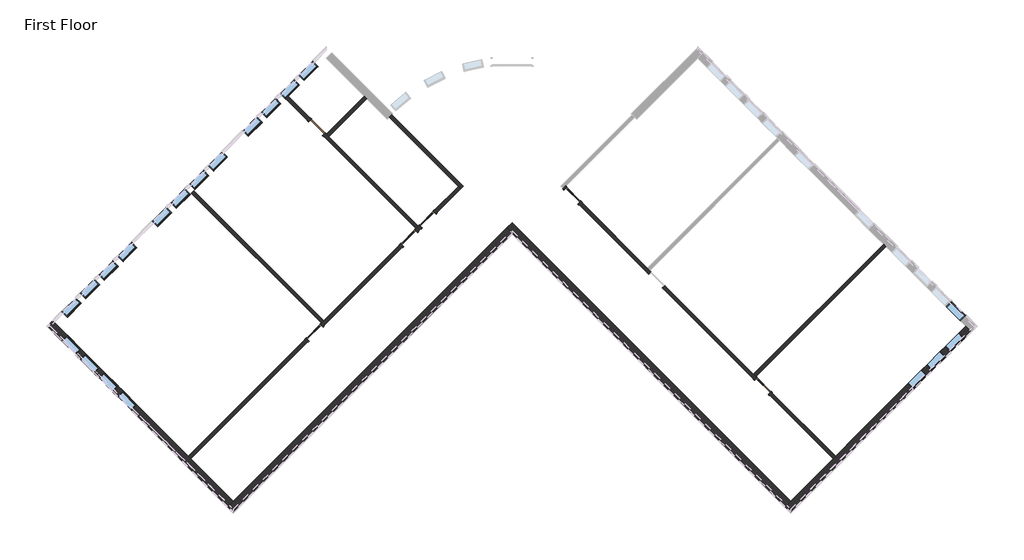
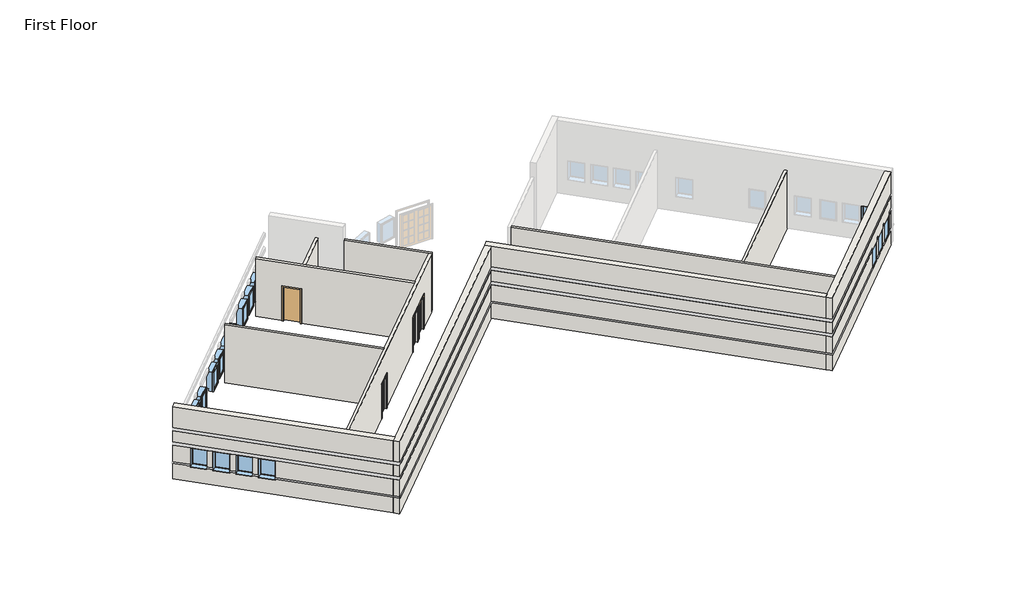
# One storey, part 1 of 3: 20 windows, 11 walls, 6 doors.
"""IFC4 building model written with IfcOpenShell, lengths in millimetres."""

from ifc_helpers import new_model, si_unit, frame, origin, origin_with_axes, place, context, project, spatial, polyline, circle_curve, outline, extrude, faceted_brep, transform, mapped, element, save
from ifc_brep_helpers import plane_surface, cylinder_surface, advanced_brep
from components import door_f9494b7c, door_b81abb0e, door_5f5b55da, window_15c49d37, window_0e2fc6ce

model = new_model("IFC4")

# Units and contexts
model_context = context("Model", 3, world=origin())
ifc_project = project(units=[si_unit("LENGTHUNIT", "METRE", prefix="MILLI")], contexts=[model_context])

# Site, building, storey
site = spatial("IfcSite", under=ifc_project)
building = spatial("IfcBuilding", under=site)
storey = spatial("IfcBuildingStorey", under=building, Name="First Floor", Elevation=0.0)

# Doors
placement = place(None, origin())
door_shape = door_f9494b7c(model_context)
element("IfcDoor", 1, ObjectType="Single-Flush : 36\" x 84\"", at=placement, inside=storey, context=model_context, shape_type="MappedRepresentation", body=[
    mapped(door_shape, transform((-11920.1265343, 7875.9588464, 0.0), x_axis=(0.7071067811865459, -0.7071067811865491, 0.0), y_axis=(0.7071067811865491, 0.7071067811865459, 0.0), z_axis=(0.0, 0.0, 1.0))),
])
door_2_shape = door_b81abb0e(model_context)
element("IfcDoor", 2, ObjectType="Single-Glass 1 : 36\" x 84\"", at=placement, inside=storey, context=model_context, shape_type="MappedRepresentation", body=[
    mapped(door_2_shape, transform((-12027.7718255, -1647.4849877, 0.0), x_axis=(0.7071067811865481, 0.7071067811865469, 0.0), y_axis=(-0.7071067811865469, 0.7071067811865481, 0.0), z_axis=(0.0, 0.0, 1.0))),
])
element("IfcDoor", 3, ObjectType="Single-Glass 1 : 36\" x 84\"", at=placement, inside=storey, context=model_context, shape_type="MappedRepresentation", body=[
    mapped(door_2_shape, transform((-7643.2795567, 2737.0072811, 0.0), x_axis=(0.7071067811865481, 0.7071067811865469, 0.0), y_axis=(-0.7071067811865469, 0.7071067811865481, 0.0), z_axis=(0.0, 0.0, 1.0))),
])
door_3_shape = door_5f5b55da(model_context)
element("IfcDoor", 4, ObjectType="Single-Glass 1 : 36\" x 84\"", at=placement, inside=storey, context=model_context, shape_type="MappedRepresentation", body=[
    mapped(door_3_shape, transform((-6781.1749691, 3599.1118687, 0.0), x_axis=(-0.7071067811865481, -0.7071067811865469, 0.0), y_axis=(0.7071067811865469, -0.7071067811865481, 0.0), z_axis=(0.0, 0.0, 1.0))),
])
element("IfcDoor", 5, ObjectType="Single-Glass 1 : 36\" x 84\"", at=placement, inside=storey, context=model_context, shape_type="MappedRepresentation", body=[
    mapped(door_3_shape, transform((-66.4240191, 4710.6541283, 0.0), x_axis=(-0.7071067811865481, 0.7071067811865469, 0.0), y_axis=(-0.7071067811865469, -0.7071067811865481, 0.0), z_axis=(0.0, 0.0, 1.0))),
])
element("IfcDoor", 6, ObjectType="Single-Glass 1 : 36\" x 84\"", at=placement, inside=storey, context=model_context, shape_type="MappedRepresentation", body=[
    mapped(door_3_shape, transform((8770.3835686, -4126.1534594, 0.0), x_axis=(-0.7071067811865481, 0.7071067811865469, 0.0), y_axis=(-0.7071067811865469, -0.7071067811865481, 0.0), z_axis=(0.0, 0.0, 1.0))),
])

# Walls
element("IfcWall", 7, ObjectType="Exterior - Split Face and CMU on Mtl. Stud", at=placement, inside=storey, context=model_context, shape_type="Brep", body=[
    faceted_brep([(18186.1821115, -1357.9895101, 4572.0), (10063.54045, -9480.6311716, 4572.0), (9814.3383427, -9729.833279, 4572.0), (10063.54045, -9979.0353863, 4572.0), (18435.3842189, -1607.1916175, 4572.0), (18186.1821115, -1357.9895101, 0.0), (12149.2049342, -7394.9666875, 0.0), (12039.1967967, -7504.974825, 0.0), (10063.54045, -9480.6311716, 0.0), (9814.3383427, -9729.833279, 0.0), (9814.3383427, -9729.833279, 1016.0), (9879.4451996, -9664.7264221, 1016.0), (9879.4451996, -9664.7264221, 1085.85), (9814.3383427, -9729.833279, 1085.85), (9814.3383427, -9729.833279, 2133.6), (9879.4451996, -9664.7264221, 2133.6), (9879.4451996, -9664.7264221, 2336.8), (9814.3383427, -9729.833279, 2336.8), (9814.3383427, -9729.833279, 3048.0), (9879.4451996, -9664.7264221, 3048.0), (9879.4451996, -9664.7264221, 3251.2), (9814.3383427, -9729.833279, 3251.2), (17233.1524307, -2311.0191909, 2133.6), (17233.1524307, -2311.0191909, 914.4), (17879.7308714, -1664.4407502, 914.4), (17879.7308714, -1664.4407502, 2133.6), (16371.0478431, -3173.1237786, 2133.6), (16371.0478431, -3173.1237786, 914.4), (17017.6262838, -2526.5453378, 914.4), (17017.6262838, -2526.5453378, 2133.6), (15508.9432554, -4035.2283662, 2133.6), (15508.9432554, -4035.2283662, 914.4), (16155.5216962, -3388.6499255, 914.4), (16155.5216962, -3388.6499255, 2133.6), (10063.54045, -9979.0353863, 3251.2), (18435.3842189, -1607.1916175, 3251.2), (10063.54045, -9979.0353863, 0.0), (18435.3842189, -1607.1916175, 0.0), (18435.3842189, -1607.1916175, 1016.0), (18128.9329788, -1913.6428576, 1016.0), (18128.9329788, -1913.6428576, 914.4), (17482.3545381, -2560.2212983, 914.4), (17482.3545381, -2560.2212983, 1016.0), (17266.8283911, -2775.7474452, 1016.0), (17266.8283911, -2775.7474452, 914.4), (16620.2499504, -3422.3258859, 914.4), (16620.2499504, -3422.3258859, 1016.0), (16404.7238035, -3637.8520328, 1016.0), (16404.7238035, -3637.8520328, 914.4), (15758.1453628, -4284.4304735, 914.4), (15758.1453628, -4284.4304735, 1016.0), (10063.54045, -9979.0353863, 1016.0), (17482.3545381, -2560.2212983, 2133.6), (18128.9329788, -1913.6428576, 2133.6), (18128.9329788, -1913.6428576, 2336.8), (18435.3842189, -1607.1916175, 2336.8), (18435.3842189, -1607.1916175, 3048.0), (10063.54045, -9979.0353863, 3048.0), (10063.54045, -9979.0353863, 2336.8), (15758.1453628, -4284.4304735, 2336.8), (15758.1453628, -4284.4304735, 2133.6), (16404.7238035, -3637.8520328, 2133.6), (16404.7238035, -3637.8520328, 2336.8), (16620.2499504, -3422.3258859, 2336.8), (16620.2499504, -3422.3258859, 2133.6), (17266.8283911, -2775.7474452, 2133.6), (17266.8283911, -2775.7474452, 2336.8), (17482.3545381, -2560.2212983, 2336.8), (18128.9329788, -1913.6428576, 1085.85), (18435.3842189, -1607.1916175, 1085.85), (18435.3842189, -1607.1916175, 2133.6), (17482.3545381, -2560.2212983, 1085.85), (17266.8283911, -2775.7474452, 1085.85), (16620.2499504, -3422.3258859, 1085.85), (16404.7238035, -3637.8520328, 1085.85), (15758.1453628, -4284.4304735, 1085.85), (10063.54045, -9979.0353863, 2133.6), (10063.54045, -9979.0353863, 1085.85), (18370.277362, -1542.0847606, 0.0), (9998.4335932, -9913.9285294, 0.0), (18370.277362, -1542.0847606, 3251.2), (18370.277362, -1542.0847606, 3048.0), (18370.277362, -1542.0847606, 2336.8), (18370.277362, -1542.0847606, 2133.6), (18370.277362, -1542.0847606, 1085.85), (18370.277362, -1542.0847606, 1016.0), (17417.2476812, -2495.1144414, 2133.6), (17417.2476812, -2495.1144414, 1085.85), (17417.2476812, -2495.1144414, 1016.0), (18063.8261219, -1848.5360007, 1016.0), (18063.8261219, -1848.5360007, 1085.85), (18063.8261219, -1848.5360007, 2133.6), (16555.1430936, -3357.219029, 2133.6), (16555.1430936, -3357.219029, 1085.85), (16555.1430936, -3357.219029, 1016.0), (17201.7215343, -2710.6405883, 1016.0), (17201.7215343, -2710.6405883, 1085.85), (17201.7215343, -2710.6405883, 2133.6), (15693.0385059, -4219.3236167, 2133.6), (15693.0385059, -4219.3236167, 1085.85), (15693.0385059, -4219.3236167, 1016.0), (16339.6169466, -3572.745176, 1016.0), (16339.6169466, -3572.745176, 1085.85), (16339.6169466, -3572.745176, 2133.6), (10063.54045, -9848.8216726, 1085.85), (10063.54045, -9848.8216726, 1016.0), (18063.8261219, -1848.5360007, 2133.6), (18063.8261219, -1848.5360007, 2336.8), (17417.2476812, -2495.1144414, 2133.6), (17417.2476812, -2495.1144414, 2336.8), (17201.7215343, -2710.6405883, 2336.8), (17201.7215343, -2710.6405883, 2133.6), (16555.1430936, -3357.219029, 2133.6), (16555.1430936, -3357.219029, 2336.8), (16339.6169466, -3572.745176, 2336.8), (16339.6169466, -3572.745176, 2133.6), (15693.0385059, -4219.3236167, 2133.6), (15693.0385059, -4219.3236167, 2336.8), (10063.54045, -9848.8216726, 2133.6), (10063.54045, -9848.8216726, 2336.8), (10063.54045, -9848.8216726, 3048.0), (10063.54045, -9848.8216726, 3251.2)], [[[0, 1, 2, 3, 4]], [[5, 6, 7, 8, 9, 10, 11, 12, 13, 14, 15, 16, 17, 18, 19, 20, 21, 2, 1, 0], [22, 23, 24, 25], [26, 27, 28, 29], [30, 31, 32, 33]], [[4, 3, 34, 35]], [[36, 37, 38, 39, 40, 41, 42, 43, 44, 45, 46, 47, 48, 49, 50, 51]], [[52, 53, 54, 55, 56, 57, 58, 59, 60, 61, 62, 63, 64, 65, 66, 67]], [[53, 68, 69, 70]], [[71, 52, 65, 72]], [[73, 64, 61, 74]], [[75, 60, 76, 77]], [[9, 8, 7, 6, 5, 78, 79]], [[5, 0, 4, 35, 80, 81, 56, 55, 82, 83, 70, 69, 84, 85, 38, 37, 78]], [[37, 36, 79, 78]], [[3, 2, 21, 34]], [[9, 79, 36, 51, 10]], [[13, 77, 76, 14]], [[17, 58, 57, 18]], [[23, 22, 86, 52, 71, 87, 88, 42, 41]], [[24, 23, 41, 40]], [[25, 24, 40, 39, 89, 90, 68, 53, 91]], [[22, 25, 91, 53, 52, 86]], [[27, 26, 92, 64, 73, 93, 94, 46, 45]], [[28, 27, 45, 44]], [[29, 28, 44, 43, 95, 96, 72, 65, 97]], [[26, 29, 97, 65, 64, 92]], [[31, 30, 98, 60, 75, 99, 100, 50, 49]], [[32, 31, 49, 48]], [[33, 32, 48, 47, 101, 102, 74, 61, 103]], [[30, 33, 103, 61, 60, 98]], [[90, 84, 69, 68]], [[85, 89, 39, 38]], [[84, 90, 89, 85]], [[96, 87, 71, 72]], [[88, 95, 43, 42]], [[87, 96, 95, 88]], [[102, 93, 73, 74]], [[94, 101, 47, 46]], [[93, 102, 101, 94]], [[104, 99, 75, 77, 13, 12]], [[100, 105, 11, 10, 51, 50]], [[99, 104, 105, 100]], [[105, 104, 12, 11]], [[106, 53, 70, 83]], [[54, 107, 82, 55]], [[53, 106, 107, 54]], [[107, 106, 83, 82]], [[108, 52, 67, 109]], [[110, 66, 65, 111]], [[52, 108, 111, 65]], [[108, 109, 110, 111]], [[109, 67, 66, 110]], [[112, 64, 63, 113]], [[114, 62, 61, 115]], [[64, 112, 115, 61]], [[112, 113, 114, 115]], [[113, 63, 62, 114]], [[116, 60, 59, 117]], [[60, 116, 118, 15, 14, 76]], [[116, 117, 119, 118]], [[117, 59, 58, 17, 16, 119]], [[118, 119, 16, 15]], [[81, 120, 19, 18, 57, 56]], [[20, 121, 80, 35, 34, 21]], [[121, 120, 81, 80]], [[120, 121, 20, 19]]]),
])
element("IfcWall", 8, ObjectType="Exterior - Split Face and CMU on Mtl. Stud", at=placement, inside=storey, context=model_context, shape_type="Brep", body=[
    faceted_brep([(10063.54045, -9480.6311716, 4572.0), (-2868.0283643, 3450.9376427, 4572.0), (-3117.2304717, 3201.7355354, 4572.0), (-2868.0283643, 2952.533428, 4572.0), (9814.3383427, -9729.833279, 4572.0), (10063.54045, -9480.6311716, 0.0), (-2868.0283643, 3450.9376427, 0.0), (-3117.2304717, 3201.7355354, 0.0), (-2868.0283643, 2952.533428, 0.0), (9814.3383427, -9729.833279, 0.0), (9814.3383427, -9729.833279, 1016.0), (-2868.0283643, 2952.533428, 1016.0), (-2933.1352212, 3017.6402849, 1016.0), (-2933.1352212, 3017.6402849, 1085.85), (-2868.0283643, 2952.533428, 1085.85), (9814.3383427, -9729.833279, 1085.85), (9814.3383427, -9729.833279, 2133.6), (-2868.0283643, 2952.533428, 2133.6), (-2933.1352212, 3017.6402849, 2133.6), (-2933.1352212, 3017.6402849, 2336.8), (-2868.0283643, 2952.533428, 2336.8), (9814.3383427, -9729.833279, 2336.8), (9814.3383427, -9729.833279, 3048.0), (-2868.0283643, 2952.533428, 3048.0), (-2933.1352212, 3017.6402849, 3048.0), (-2933.1352212, 3017.6402849, 3251.2), (-2868.0283643, 2952.533428, 3251.2), (9814.3383427, -9729.833279, 3251.2), (9879.4451996, -9664.7264221, 0.0), (-3052.1236148, 3266.8423923, 0.0), (-2868.0283643, 3082.7471418, 1085.85), (-2868.0283643, 3082.7471418, 1016.0), (9879.4451996, -9664.7264221, 1016.0), (9879.4451996, -9664.7264221, 1085.85), (-2868.0283643, 3082.7471418, 2336.8), (-2868.0283643, 3082.7471418, 2133.6), (9879.4451996, -9664.7264221, 2133.6), (9879.4451996, -9664.7264221, 2336.8), (-2868.0283643, 3082.7471418, 3251.2), (-2868.0283643, 3082.7471418, 3048.0), (9879.4451996, -9664.7264221, 3048.0), (9879.4451996, -9664.7264221, 3251.2)], [[[0, 1, 2, 3, 4]], [[5, 6, 1, 0]], [[4, 3, 2, 7, 8, 9, 10, 11, 12, 13, 14, 15, 16, 17, 18, 19, 20, 21, 22, 23, 24, 25, 26, 27]], [[6, 5, 28, 29]], [[30, 31, 32, 33]], [[34, 35, 36, 37]], [[38, 39, 40, 41]], [[5, 0, 4, 27, 41, 40, 22, 21, 37, 36, 16, 15, 33, 32, 10, 9, 28]], [[28, 9, 8, 7, 29]], [[13, 30, 33, 15, 14]], [[32, 31, 12, 11, 10]], [[36, 35, 18, 17, 16]], [[19, 34, 37, 21, 20]], [[40, 39, 24, 23, 22]], [[25, 38, 41, 27, 26]], [[1, 6, 29, 7, 2]], [[31, 30, 13, 12]], [[35, 34, 19, 18]], [[39, 38, 25, 24]]]),
])
element("IfcWall", 9, ObjectType="Exterior - Split Face and CMU on Mtl. Stud", at=placement, inside=storey, context=model_context, shape_type="Brep", body=[
    faceted_brep([(-3117.2304717, 3201.7355354, 4572.0), (-15799.5971786, -9480.6311716, 4572.0), (-16048.799286, -9729.833279, 4572.0), (-15799.5971786, -9979.0353863, 4572.0), (-2868.0283643, 2952.533428, 4572.0), (-3117.2304717, 3201.7355354, 0.0), (-15799.5971786, -9480.6311716, 0.0), (-16048.799286, -9729.833279, 0.0), (-16048.799286, -9729.833279, 1016.0), (-15983.6924291, -9664.7264221, 1016.0), (-15983.6924291, -9664.7264221, 1085.85), (-16048.799286, -9729.833279, 1085.85), (-16048.799286, -9729.833279, 2133.6), (-15983.6924291, -9664.7264221, 2133.6), (-15983.6924291, -9664.7264221, 2336.8), (-16048.799286, -9729.833279, 2336.8), (-16048.799286, -9729.833279, 3048.0), (-15983.6924291, -9664.7264221, 3048.0), (-15983.6924291, -9664.7264221, 3251.2), (-16048.799286, -9729.833279, 3251.2), (-15799.5971786, -9979.0353863, 3251.2), (-2868.0283643, 2952.533428, 3251.2), (-15799.5971786, -9979.0353863, 0.0), (-2868.0283643, 2952.533428, 0.0), (-2868.0283643, 2952.533428, 1016.0), (-15799.5971786, -9979.0353863, 1016.0), (-15799.5971786, -9979.0353863, 1085.85), (-2868.0283643, 2952.533428, 1085.85), (-2868.0283643, 2952.533428, 2133.6), (-15799.5971786, -9979.0353863, 2133.6), (-15799.5971786, -9979.0353863, 2336.8), (-2868.0283643, 2952.533428, 2336.8), (-2868.0283643, 2952.533428, 3048.0), (-15799.5971786, -9979.0353863, 3048.0), (-2933.1352212, 3017.6402849, 0.0), (-15864.7040355, -9913.9285294, 0.0), (-15799.5971786, -9848.8216726, 1085.85), (-15799.5971786, -9848.8216726, 1016.0), (-2933.1352212, 3017.6402849, 1016.0), (-2933.1352212, 3017.6402849, 1085.85), (-15799.5971786, -9848.8216726, 2336.8), (-15799.5971786, -9848.8216726, 2133.6), (-2933.1352212, 3017.6402849, 2133.6), (-2933.1352212, 3017.6402849, 2336.8), (-15799.5971786, -9848.8216726, 3251.2), (-15799.5971786, -9848.8216726, 3048.0), (-2933.1352212, 3017.6402849, 3048.0), (-2933.1352212, 3017.6402849, 3251.2)], [[[0, 1, 2, 3, 4]], [[5, 6, 7, 8, 9, 10, 11, 12, 13, 14, 15, 16, 17, 18, 19, 2, 1, 0]], [[4, 3, 20, 21]], [[22, 23, 24, 25]], [[26, 27, 28, 29]], [[30, 31, 32, 33]], [[7, 6, 5, 34, 35]], [[36, 37, 38, 39]], [[40, 41, 42, 43]], [[44, 45, 46, 47]], [[5, 0, 4, 21, 47, 46, 32, 31, 43, 42, 28, 27, 39, 38, 24, 23, 34]], [[23, 22, 35, 34]], [[10, 36, 39, 27, 26, 11]], [[38, 37, 9, 8, 25, 24]], [[42, 41, 13, 12, 29, 28]], [[14, 40, 43, 31, 30, 15]], [[46, 45, 17, 16, 33, 32]], [[18, 44, 47, 21, 20, 19]], [[3, 2, 19, 20]], [[7, 35, 22, 25, 8]], [[11, 26, 29, 12]], [[15, 30, 33, 16]], [[37, 36, 10, 9]], [[41, 40, 14, 13]], [[45, 44, 18, 17]]]),
])
element("IfcWall", 10, ObjectType="Exterior - Split Face and CMU on Mtl. Stud", at=placement, inside=storey, context=model_context, shape_type="Brep", body=[
    faceted_brep([(-15799.5971786, -9480.6311716, 4572.0), (-23922.2388402, -1357.9895101, 4572.0), (-24171.4409475, -1108.7874027, 4572.0), (-24420.6430549, -1357.9895101, 4572.0), (-16048.799286, -9729.833279, 4572.0), (-15799.5971786, -9480.6311716, 0.0), (-17775.2535253, -7504.974825, 0.0), (-17885.2616628, -7394.9666875, 0.0), (-23922.2388402, -1357.9895101, 0.0), (-24171.4409475, -1108.7874027, 0.0), (-24171.4409475, -1108.7874027, 1016.0), (-24106.3340906, -1173.8942596, 1016.0), (-24106.3340906, -1173.8942596, 1085.85), (-24171.4409475, -1108.7874027, 1085.85), (-24171.4409475, -1108.7874027, 2133.6), (-24106.3340906, -1173.8942596, 2133.6), (-24106.3340906, -1173.8942596, 2336.8), (-24171.4409475, -1108.7874027, 2336.8), (-24171.4409475, -1108.7874027, 3048.0), (-24106.3340906, -1173.8942596, 3048.0), (-24106.3340906, -1173.8942596, 3251.2), (-24171.4409475, -1108.7874027, 3251.2), (-20921.7107637, -4358.5175865, 2133.6), (-20921.7107637, -4358.5175865, 914.4), (-20275.132323, -5005.0960273, 914.4), (-20275.132323, -5005.0960273, 2133.6), (-21783.8153513, -3496.4129989, 2133.6), (-21783.8153513, -3496.4129989, 914.4), (-21137.2369106, -4142.9914396, 914.4), (-21137.2369106, -4142.9914396, 2133.6), (-22645.9199389, -2634.3084113, 2133.6), (-22645.9199389, -2634.3084113, 914.4), (-21999.3414982, -3280.886852, 914.4), (-21999.3414982, -3280.886852, 2133.6), (-23508.0245266, -1772.2038237, 2133.6), (-23508.0245266, -1772.2038237, 914.4), (-22861.4460859, -2418.7822644, 914.4), (-22861.4460859, -2418.7822644, 2133.6), (-24420.6430549, -1357.9895101, 3251.2), (-16048.799286, -9729.833279, 3251.2), (-24420.6430549, -1357.9895101, 0.0), (-16048.799286, -9729.833279, 0.0), (-16048.799286, -9729.833279, 1016.0), (-20524.3344303, -5254.2981346, 1016.0), (-20524.3344303, -5254.2981346, 914.4), (-21170.9128711, -4607.7196939, 914.4), (-21170.9128711, -4607.7196939, 1016.0), (-21386.439018, -4392.193547, 1016.0), (-21386.439018, -4392.193547, 914.4), (-22033.0174587, -3745.6151063, 914.4), (-22033.0174587, -3745.6151063, 1016.0), (-22248.5436056, -3530.0889594, 1016.0), (-22248.5436056, -3530.0889594, 914.4), (-22895.1220463, -2883.5105187, 914.4), (-22895.1220463, -2883.5105187, 1016.0), (-23110.6481932, -2667.9843718, 1016.0), (-23110.6481932, -2667.9843718, 914.4), (-23757.2266339, -2021.405931, 914.4), (-23757.2266339, -2021.405931, 1016.0), (-24420.6430549, -1357.9895101, 1016.0), (-20524.3344303, -5254.2981346, 2133.6), (-20524.3344303, -5254.2981346, 1085.85), (-16048.799286, -9729.833279, 1085.85), (-16048.799286, -9729.833279, 2133.6), (-21170.9128711, -4607.7196939, 1085.85), (-21170.9128711, -4607.7196939, 2133.6), (-21386.439018, -4392.193547, 2133.6), (-21386.439018, -4392.193547, 1085.85), (-22033.0174587, -3745.6151063, 1085.85), (-22033.0174587, -3745.6151063, 2133.6), (-22248.5436056, -3530.0889594, 2133.6), (-22248.5436056, -3530.0889594, 1085.85), (-22895.1220463, -2883.5105187, 1085.85), (-22895.1220463, -2883.5105187, 2133.6), (-23110.6481932, -2667.9843718, 2133.6), (-23110.6481932, -2667.9843718, 1085.85), (-23757.2266339, -2021.405931, 1085.85), (-23757.2266339, -2021.405931, 2133.6), (-24420.6430549, -1357.9895101, 2133.6), (-24420.6430549, -1357.9895101, 1085.85), (-24420.6430549, -1357.9895101, 2336.8), (-16048.799286, -9729.833279, 2336.8), (-16048.799286, -9729.833279, 3048.0), (-24420.6430549, -1357.9895101, 3048.0), (-15983.6924291, -9664.7264221, 0.0), (-24355.536198, -1292.8826532, 0.0), (-15983.6924291, -9664.7264221, 3251.2), (-15983.6924291, -9664.7264221, 3048.0), (-15983.6924291, -9664.7264221, 2336.8), (-15983.6924291, -9664.7264221, 2133.6), (-15983.6924291, -9664.7264221, 1085.85), (-15983.6924291, -9664.7264221, 1016.0), (-21105.8060142, -4542.612837, 2133.6), (-21105.8060142, -4542.612837, 1085.85), (-21105.8060142, -4542.612837, 1016.0), (-20459.2275735, -5189.1912777, 1016.0), (-20459.2275735, -5189.1912777, 1085.85), (-20459.2275735, -5189.1912777, 2133.6), (-21967.9106018, -3680.5082494, 2133.6), (-21967.9106018, -3680.5082494, 1085.85), (-21967.9106018, -3680.5082494, 1016.0), (-21321.3321611, -4327.0866901, 1016.0), (-21321.3321611, -4327.0866901, 1085.85), (-21321.3321611, -4327.0866901, 2133.6), (-22830.0151894, -2818.4036618, 2133.6), (-22830.0151894, -2818.4036618, 1085.85), (-22830.0151894, -2818.4036618, 1016.0), (-22183.4367487, -3464.9821025, 1016.0), (-22183.4367487, -3464.9821025, 1085.85), (-22183.4367487, -3464.9821025, 2133.6), (-23692.119777, -1956.2990742, 2133.6), (-23692.119777, -1956.2990742, 1085.85), (-23692.119777, -1956.2990742, 1016.0), (-23045.5413363, -2602.8775149, 1016.0), (-23045.5413363, -2602.8775149, 1085.85), (-23045.5413363, -2602.8775149, 2133.6), (-24290.4293411, -1357.9895101, 1085.85), (-24290.4293411, -1357.9895101, 1016.0), (-24290.4293411, -1357.9895101, 2133.6), (-24290.4293411, -1357.9895101, 2336.8), (-24290.4293411, -1357.9895101, 3048.0), (-24290.4293411, -1357.9895101, 3251.2)], [[[0, 1, 2, 3, 4]], [[5, 6, 7, 8, 9, 10, 11, 12, 13, 14, 15, 16, 17, 18, 19, 20, 21, 2, 1, 0], [22, 23, 24, 25], [26, 27, 28, 29], [30, 31, 32, 33], [34, 35, 36, 37]], [[4, 3, 38, 39]], [[40, 41, 42, 43, 44, 45, 46, 47, 48, 49, 50, 51, 52, 53, 54, 55, 56, 57, 58, 59]], [[60, 61, 62, 63]], [[64, 65, 66, 67]], [[68, 69, 70, 71]], [[72, 73, 74, 75]], [[76, 77, 78, 79]], [[80, 81, 82, 83]], [[9, 8, 7, 6, 5, 84, 85]], [[5, 0, 4, 39, 86, 87, 82, 81, 88, 89, 63, 62, 90, 91, 42, 41, 84]], [[41, 40, 85, 84]], [[3, 2, 21, 38]], [[9, 85, 40, 59, 10]], [[13, 79, 78, 14]], [[17, 80, 83, 18]], [[23, 22, 92, 65, 64, 93, 94, 46, 45]], [[24, 23, 45, 44]], [[25, 24, 44, 43, 95, 96, 61, 60, 97]], [[22, 25, 97, 92]], [[27, 26, 98, 69, 68, 99, 100, 50, 49]], [[28, 27, 49, 48]], [[29, 28, 48, 47, 101, 102, 67, 66, 103]], [[26, 29, 103, 98]], [[31, 30, 104, 73, 72, 105, 106, 54, 53]], [[32, 31, 53, 52]], [[33, 32, 52, 51, 107, 108, 71, 70, 109]], [[30, 33, 109, 104]], [[35, 34, 110, 77, 76, 111, 112, 58, 57]], [[36, 35, 57, 56]], [[37, 36, 56, 55, 113, 114, 75, 74, 115]], [[34, 37, 115, 110]], [[96, 90, 62, 61]], [[91, 95, 43, 42]], [[90, 96, 95, 91]], [[102, 93, 64, 67]], [[94, 101, 47, 46]], [[93, 102, 101, 94]], [[108, 99, 68, 71]], [[100, 107, 51, 50]], [[99, 108, 107, 100]], [[114, 105, 72, 75]], [[106, 113, 55, 54]], [[105, 114, 113, 106]], [[116, 111, 76, 79, 13, 12]], [[112, 117, 11, 10, 59, 58]], [[111, 116, 117, 112]], [[117, 116, 12, 11]], [[92, 103, 66, 65]], [[98, 109, 70, 69]], [[110, 118, 15, 14, 78, 77]], [[104, 115, 74, 73]], [[89, 97, 60, 63]], [[16, 119, 88, 81, 80, 17]], [[119, 118, 110, 115, 104, 109, 98, 103, 92, 97, 89, 88]], [[118, 119, 16, 15]], [[87, 120, 19, 18, 83, 82]], [[20, 121, 86, 39, 38, 21]], [[121, 120, 87, 86]], [[120, 121, 20, 19]]]),
])
element("IfcWall", 11, ObjectType="Interior - 6 1/8\" Partition (2-hr)", at=placement, inside=storey, context=model_context, shape_type="Brep", body=[
    faceted_brep([(-7264.9862676, 3005.2924327, 0.0), (-7049.4601207, 3220.8185796, 0.0), (-7049.4601207, 3220.8185796, 2133.6), (-6402.88168, 3867.3970204, 2133.6), (-6402.88168, 3867.3970204, 0.0), (-5238.5804157, 5031.6982846, 0.0), (-5238.5804157, 5031.6982846, 3657.6), (-17775.2535253, -7504.974825, 3657.6), (-17775.2535253, -7504.974825, 0.0), (-12296.0569771, -2025.7782768, 0.0), (-12296.0569771, -2025.7782768, 2133.6), (-11649.4785364, -1379.1998361, 2133.6), (-11649.4785364, -1379.1998361, 0.0), (-7911.5647083, 2358.713992, 0.0), (-7911.5647083, 2358.713992, 2133.6), (-7264.9862676, 3005.2924327, 2133.6), (-7159.4682582, 3330.8267171, 2133.6), (-7159.4682582, 3330.8267171, 0.0), (-7212.2272629, 3278.0677124, 0.0), (-7322.2354004, 3168.0595749, 0.0), (-7374.9944051, 3115.3005702, 0.0), (-7374.9944051, 3115.3005702, 2133.6), (-8021.5728458, 2468.7221295, 2133.6), (-8021.5728458, 2468.7221295, 0.0), (-11596.7195317, -1106.4245564, 0.0), (-11706.7276692, -1216.4326939, 0.0), (-11759.4866739, -1269.1916986, 0.0), (-11759.4866739, -1269.1916986, 2133.6), (-12406.0651146, -1915.7701393, 2133.6), (-12406.0651146, -1915.7701393, 0.0), (-17885.2616628, -7394.9666875, 0.0), (-17885.2616628, -7394.9666875, 3657.6), (-11706.7276692, -1216.4326939, 3657.6), (-11596.7195317, -1106.4245564, 3657.6), (-7322.2354004, 3168.0595749, 3657.6), (-7212.2272629, 3278.0677124, 3657.6), (-5348.5885532, 5141.7064221, 3657.6), (-5348.5885532, 5141.7064221, 0.0), (-6512.8898174, 3977.4051578, 0.0), (-6512.8898174, 3977.4051578, 2133.6)], [[[0, 1, 2, 3, 4, 5, 6, 7, 8, 9, 10, 11, 12, 13, 14, 15]], [[16, 17, 18, 19, 20, 21, 22, 23, 24, 25, 26, 27, 28, 29, 30, 31, 32, 33, 34, 35, 36, 37, 38, 39]], [[20, 19, 18, 17, 1, 0]], [[9, 8, 30, 29]], [[13, 12, 26, 25, 24, 23]], [[38, 37, 5, 4]], [[7, 6, 36, 35, 34, 33, 32, 31]], [[8, 7, 31, 30]], [[6, 5, 37, 36]], [[27, 26, 12, 11]], [[28, 27, 11, 10]], [[29, 28, 10, 9]], [[21, 20, 0, 15]], [[22, 21, 15, 14]], [[23, 22, 14, 13]], [[2, 1, 17, 16]], [[3, 2, 16, 39]], [[4, 3, 39, 38]]]),
])
element("IfcWall", 12, ObjectType="Interior - 6 1/8\" Partition (2-hr)", at=placement, inside=storey, context=model_context, shape_type="Brep", body=[
    faceted_brep([(-7212.2272629, 3278.0677124, 0.0), (-11379.066103, 7444.9065526, 0.0), (-11489.0742405, 7554.9146901, 0.0), (-11541.8332452, 7607.6736948, 0.0), (-11541.8332452, 7607.6736948, 2133.6), (-12188.411686, 8254.2521355, 2133.6), (-12188.411686, 8254.2521355, 0.0), (-13249.2044403, 9315.0448898, 0.0), (-13249.2044403, 9315.0448898, 3657.6), (-11489.0742405, 7554.9146901, 3657.6), (-11379.066103, 7444.9065526, 3657.6), (-7212.2272629, 3278.0677124, 3657.6), (-11651.8413827, 7497.6655573, 2133.6), (-11651.8413827, 7497.6655573, 0.0), (-7322.2354004, 3168.0595749, 0.0), (-7322.2354004, 3168.0595749, 3657.6), (-13359.2125777, 9205.0367523, 3657.6), (-13359.2125777, 9205.0367523, 0.0), (-12298.4198234, 8144.243998, 0.0), (-12298.4198234, 8144.243998, 2133.6)], [[[0, 1, 2, 3, 4, 5, 6, 7, 8, 9, 10, 11]], [[12, 13, 14, 15, 16, 17, 18, 19]], [[14, 13, 3, 2, 1, 0]], [[18, 17, 7, 6]], [[11, 10, 9, 8, 16, 15]], [[8, 7, 17, 16]], [[0, 11, 15, 14]], [[4, 3, 13, 12]], [[5, 4, 12, 19]], [[6, 5, 19, 18]]]),
])
element("IfcWall", 13, ObjectType="Interior - 6 1/8\" Partition (2-hr)", at=placement, inside=storey, context=model_context, shape_type="AdvancedBrep", body=[
    advanced_brep(
    [(-5128.5722782, 5141.7064221, 0.0), (-8449.0111375, 8462.1452813, 0.0), (-8449.0111375, 8462.1452813, 3657.6), (-5128.5722782, 5141.7064221, 3657.6), (-5238.5804157, 5031.6982846, 0.0), (-5238.5804157, 5031.6982846, 3657.6), (-5348.5885532, 5141.7064221, 3657.6), (-8557.7157352, 8350.8336041, 3657.6), (-8557.7157352, 8350.8336041, 0.0), (-5348.5885532, 5141.7064221, 0.0)],
    [
        (0, 1),
        (1, 2),
        (2, 3),
        (3, 0),
        (4, 5),
        (5, 6),
        (6, 7),
        (7, 8),
        (8, 9),
        (9, 4),
        (0, 4),
        (8, 1, circle_curve(frame((-2868.0283643, 2903.1420194, 0.0), z_axis=(0.0, 0.0, -1.0), x_axis=(1.0, 0.0, 0.0)), 7877.175)),
        (2, 7, circle_curve(frame((-2868.0283643, 2903.1420194, 3657.6), z_axis=(0.0, 0.0, 1.0), x_axis=(1.0, 0.0, 0.0)), 7877.175)),
        (5, 3),
    ],
    [
        plane_surface(frame((-5183.576347, 5196.7104908, 0.0), z_axis=(0.7071067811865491, 0.7071067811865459, 0.0), x_axis=(-0.7071067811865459, 0.7071067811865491, 0.0))),
        plane_surface(frame((-5293.5844845, 5086.7023533, 0.0), z_axis=(-0.7071067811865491, -0.7071067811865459, 0.0), x_axis=(0.7071067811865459, -0.7071067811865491, 0.0))),
        plane_surface(frame((-5183.576347, 5196.7104908, 0.0), z_axis=(0.0, 0.0, -1.0), x_axis=(-0.707106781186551, -0.7071067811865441, 0.0))),
        plane_surface(frame((-8573.2406241, 8586.374768, 3657.6), z_axis=(0.0, 0.0, 1.0), x_axis=(-0.707106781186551, -0.7071067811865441, 0.0))),
        plane_surface(frame((-17899.854579, -7629.5758786, 0.0), z_axis=(0.7071067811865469, -0.7071067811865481, 0.0), x_axis=(0.7071067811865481, 0.7071067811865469, 0.0))),
        cylinder_surface(frame((-2868.0283643, 2903.1420194, 0.0), z_axis=(0.0, 0.0, -1.0), x_axis=(1.0, 0.0, 0.0)), 7877.175),
    ],
    [
        (0, [[1, 2, 3, 4]]),
        (1, [[5, 6, 7, 8, 9, 10]]),
        (2, [[-1, 11, -10, -9, 12]]),
        (3, [[-3, 13, -7, -6, 14]]),
        (4, [[-4, -14, -5, -11]]),
        (5, [[-2, -12, -8, -13]]),
    ],
),
])
element("IfcWall", 14, ObjectType="Interior - 6 1/8\" Partition (2-hr)", at=placement, inside=storey, context=model_context, shape_type="SweptSolid", body=[
    extrude(outline(polyline([(-11489.0742405, 7554.9146901), (-9728.9440408, 9315.0448898), (-9618.9359033, 9205.0367523), (-11379.066103, 7444.9065526), (-11489.0742405, 7554.9146901)])), origin_with_axes(), (0.0, 0.0, 1.0), 3657.6),
])
element("IfcWall", 15, ObjectType="Interior - 6 1/8\" Partition (2-hr)", at=placement, inside=storey, context=model_context, shape_type="SweptSolid", body=[
    extrude(outline(polyline([(-17633.6967091, 4930.552621), (-11596.7195317, -1106.4245564), (-11706.7276692, -1216.4326939), (-17743.7048466, 4820.5444835), (-17633.6967091, 4930.552621)])), origin_with_axes(), (0.0, 0.0, 1.0), 3657.6),
])
element("IfcWall", 16, ObjectType="Interior - 6 1/8\" Partition (2-hr)", at=placement, inside=storey, context=model_context, shape_type="Brep", body=[
    faceted_brep([(-387.4681754, 5141.7064221, 0.0), (-334.7091707, 5088.9474174, 0.0), (-444.7173082, 4978.9392799, 0.0), (-497.4763129, 5031.6982846, 0.0), (311.86927, 4442.3689766, 0.0), (3415.9058564, 1338.3323903, 0.0), (3525.9139939, 1228.3242528, 0.0), (3578.6729986, 1175.5652481, 0.0), (3468.6648611, 1065.5571106, 0.0), (201.8611325, 4332.3608392, 0.0), (4225.2514393, 528.9868073, 0.0), (8339.3312748, -3585.0930281, 0.0), (8449.3394123, -3695.1011656, 0.0), (8502.098417, -3747.8601703, 0.0), (8392.0902795, -3857.8683078, 0.0), (4115.2433018, 418.9786699, 0.0), (9148.6768577, -4394.438611, 0.0), (12149.2049342, -7394.9666875, 0.0), (12039.1967967, -7504.974825, 0.0), (9038.6687202, -4504.4467485, 0.0), (12149.2049342, -7394.9666875, 3657.6), (8449.3394123, -3695.1011656, 3657.6), (8339.3312748, -3585.0930281, 3657.6), (3525.9139939, 1228.3242528, 3657.6), (3415.9058564, 1338.3323903, 3657.6), (-387.4681754, 5141.7064221, 3657.6), (-497.4763129, 5031.6982846, 3657.6), (12039.1967967, -7504.974825, 3657.6), (8502.098417, -3747.8601703, 2133.6), (4225.2514393, 528.9868073, 2133.6), (3578.6729986, 1175.5652481, 2133.6), (311.86927, 4442.3689766, 2133.6), (-334.7091707, 5088.9474174, 2133.6), (9148.6768577, -4394.438611, 2133.6), (8392.0902795, -3857.8683078, 2133.6), (9038.6687202, -4504.4467485, 2133.6), (-444.7173082, 4978.9392799, 2133.6), (201.8611325, 4332.3608392, 2133.6), (3468.6648611, 1065.5571106, 2133.6), (4115.2433018, 418.9786699, 2133.6)], [[[0, 1, 2, 3]], [[4, 5, 6, 7, 8, 9]], [[10, 11, 12, 13, 14, 15]], [[16, 17, 18, 19]], [[20, 21, 22, 23, 24, 25, 26, 27]], [[28, 13, 12, 11, 10, 29, 30, 7, 6, 5, 4, 31, 32, 1, 0, 25, 24, 23, 22, 21, 20, 17, 16, 33]], [[15, 14, 34, 35, 19, 18, 27, 26, 3, 2, 36, 37, 9, 8, 38, 39]], [[25, 0, 3, 26]], [[17, 20, 27, 18]], [[36, 2, 1, 32]], [[37, 36, 32, 31]], [[9, 37, 31, 4]], [[38, 8, 7, 30]], [[39, 38, 30, 29]], [[15, 39, 29, 10]], [[34, 14, 13, 28]], [[35, 34, 28, 33]], [[19, 35, 33, 16]]]),
])
element("IfcWall", 17, ObjectType="Interior - 6 1/8\" Partition (2-hr)", at=placement, inside=storey, context=model_context, shape_type="SweptSolid", body=[
    extrude(outline(polyline([(8339.3312748, -3585.0930281), (14376.3084522, 2451.8841493), (14486.3165897, 2341.8760118), (8449.3394123, -3695.1011656), (8339.3312748, -3585.0930281)])), origin_with_axes(), (0.0, 0.0, 1.0), 3657.6),
])

# Windows
window_shape = window_15c49d37(model_context)
element("IfcWindow", 18, ObjectType="Fixed : 36\" x 48\"", at=placement, inside=storey, context=model_context, shape_type="MappedRepresentation", body=[
    mapped(window_shape, transform((-23336.2771283, -522.8256908, 0.0), x_axis=(-0.7071067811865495, -0.7071067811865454, 0.0), y_axis=(0.7071067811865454, -0.7071067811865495, 0.0), z_axis=(0.0, 0.0, 1.0))),
])
element("IfcWindow", 19, ObjectType="Fixed : 36\" x 48\"", at=placement, inside=storey, context=model_context, shape_type="MappedRepresentation", body=[
    mapped(window_shape, transform((-22474.1725406, 339.2788968, 0.0), x_axis=(-0.7071067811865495, -0.7071067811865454, 0.0), y_axis=(0.7071067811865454, -0.7071067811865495, 0.0), z_axis=(0.0, 0.0, 1.0))),
])
element("IfcWindow", 20, ObjectType="Fixed : 36\" x 48\"", at=placement, inside=storey, context=model_context, shape_type="MappedRepresentation", body=[
    mapped(window_shape, transform((-21612.067953, 1201.3834844, 0.0), x_axis=(-0.7071067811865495, -0.7071067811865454, 0.0), y_axis=(0.7071067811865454, -0.7071067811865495, 0.0), z_axis=(0.0, 0.0, 1.0))),
])
element("IfcWindow", 21, ObjectType="Fixed : 36\" x 48\"", at=placement, inside=storey, context=model_context, shape_type="MappedRepresentation", body=[
    mapped(window_shape, transform((-20749.9633654, 2063.488072, 0.0), x_axis=(-0.7071067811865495, -0.7071067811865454, 0.0), y_axis=(0.7071067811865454, -0.7071067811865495, 0.0), z_axis=(0.0, 0.0, 1.0))),
])
element("IfcWindow", 22, ObjectType="Fixed : 36\" x 48\"", at=placement, inside=storey, context=model_context, shape_type="MappedRepresentation", body=[
    mapped(window_shape, transform((-19133.3994813, 3680.0519561, 0.0), x_axis=(-0.7071067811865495, -0.7071067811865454, 0.0), y_axis=(0.7071067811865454, -0.7071067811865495, 0.0), z_axis=(0.0, 0.0, 1.0))),
])
element("IfcWindow", 23, ObjectType="Fixed : 36\" x 48\"", at=placement, inside=storey, context=model_context, shape_type="MappedRepresentation", body=[
    mapped(window_shape, transform((-18271.2948937, 4542.1565437, 0.0), x_axis=(-0.7071067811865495, -0.7071067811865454, 0.0), y_axis=(0.7071067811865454, -0.7071067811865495, 0.0), z_axis=(0.0, 0.0, 1.0))),
])
element("IfcWindow", 24, ObjectType="Fixed : 36\" x 48\"", at=placement, inside=storey, context=model_context, shape_type="MappedRepresentation", body=[
    mapped(window_shape, transform((-17409.1903061, 5404.2611313, 0.0), x_axis=(-0.7071067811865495, -0.7071067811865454, 0.0), y_axis=(0.7071067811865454, -0.7071067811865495, 0.0), z_axis=(0.0, 0.0, 1.0))),
])
element("IfcWindow", 25, ObjectType="Fixed : 36\" x 48\"", at=placement, inside=storey, context=model_context, shape_type="MappedRepresentation", body=[
    mapped(window_shape, transform((-16547.0857185, 6266.365719, 0.0), x_axis=(-0.7071067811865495, -0.7071067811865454, 0.0), y_axis=(0.7071067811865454, -0.7071067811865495, 0.0), z_axis=(0.0, 0.0, 1.0))),
])
element("IfcWindow", 26, ObjectType="Fixed : 36\" x 48\"", at=placement, inside=storey, context=model_context, shape_type="MappedRepresentation", body=[
    mapped(window_shape, transform((17761.8650098, -684.470301, 0.0), x_axis=(0.7071067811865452, -0.7071067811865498, 0.0), y_axis=(0.7071067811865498, 0.7071067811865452, 0.0), z_axis=(0.0, 0.0, 1.0))),
])
element("IfcWindow", 27, ObjectType="Fixed : 36\" x 48\"", at=placement, inside=storey, context=model_context, shape_type="MappedRepresentation", body=[
    mapped(window_shape, transform((17654.1019364, -2139.2717926, 0.0), x_axis=(-0.7071067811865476, -0.7071067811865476, 0.0), y_axis=(0.7071067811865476, -0.7071067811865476, 0.0), z_axis=(0.0, 0.0, 1.0))),
])
element("IfcWindow", 28, ObjectType="Fixed : 36\" x 48\"", at=placement, inside=storey, context=model_context, shape_type="MappedRepresentation", body=[
    mapped(window_shape, transform((16791.9973487, -3001.3763802, 0.0), x_axis=(-0.7071067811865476, -0.7071067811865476, 0.0), y_axis=(0.7071067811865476, -0.7071067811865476, 0.0), z_axis=(0.0, 0.0, 1.0))),
])
element("IfcWindow", 29, ObjectType="Fixed : 36\" x 48\"", at=placement, inside=storey, context=model_context, shape_type="MappedRepresentation", body=[
    mapped(window_shape, transform((15929.8927611, -3863.4809679, 0.0), x_axis=(-0.7071067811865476, -0.7071067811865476, 0.0), y_axis=(0.7071067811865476, -0.7071067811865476, 0.0), z_axis=(0.0, 0.0, 1.0))),
])
window_2_shape = window_0e2fc6ce(model_context)
element("IfcWindow", 30, ObjectType="Fixed : 36\" x 48\"", at=placement, inside=storey, context=model_context, shape_type="MappedRepresentation", body=[
    mapped(window_2_shape, transform((-12290.3265348, 10523.1249026, 0.0), x_axis=(0.7071067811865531, 0.7071067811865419, 0.0), y_axis=(-0.7071067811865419, 0.7071067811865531, 0.0), z_axis=(0.0, 0.0, 1.0))),
])
element("IfcWindow", 31, ObjectType="Fixed : 36\" x 48\"", at=placement, inside=storey, context=model_context, shape_type="MappedRepresentation", body=[
    mapped(window_2_shape, transform((-13152.4311224, 9661.020315, 0.0), x_axis=(0.7071067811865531, 0.7071067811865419, 0.0), y_axis=(-0.7071067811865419, 0.7071067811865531, 0.0), z_axis=(0.0, 0.0, 1.0))),
])
element("IfcWindow", 32, ObjectType="Fixed : 36\" x 48\"", at=placement, inside=storey, context=model_context, shape_type="MappedRepresentation", body=[
    mapped(window_2_shape, transform((-14014.53571, 8798.9157274, 0.0), x_axis=(0.7071067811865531, 0.7071067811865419, 0.0), y_axis=(-0.7071067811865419, 0.7071067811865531, 0.0), z_axis=(0.0, 0.0, 1.0))),
])
element("IfcWindow", 33, ObjectType="Fixed : 36\" x 48\"", at=placement, inside=storey, context=model_context, shape_type="MappedRepresentation", body=[
    mapped(window_2_shape, transform((-14876.6402977, 7936.8111398, 0.0), x_axis=(0.7071067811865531, 0.7071067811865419, 0.0), y_axis=(-0.7071067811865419, 0.7071067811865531, 0.0), z_axis=(0.0, 0.0, 1.0))),
])
element("IfcWindow", 34, ObjectType="Fixed : 36\" x 48\"", at=placement, inside=storey, context=model_context, shape_type="MappedRepresentation", body=[
    mapped(window_2_shape, transform((-23336.2771283, -2193.1533294, 0.0), x_axis=(-0.707106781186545, 0.70710678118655, 0.0), y_axis=(-0.70710678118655, -0.707106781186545, 0.0), z_axis=(0.0, 0.0, 1.0))),
])
element("IfcWindow", 35, ObjectType="Fixed : 36\" x 48\"", at=placement, inside=storey, context=model_context, shape_type="MappedRepresentation", body=[
    mapped(window_2_shape, transform((-22474.1725406, -3055.257917, 0.0), x_axis=(-0.707106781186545, 0.70710678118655, 0.0), y_axis=(-0.70710678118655, -0.707106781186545, 0.0), z_axis=(0.0, 0.0, 1.0))),
])
element("IfcWindow", 36, ObjectType="Fixed : 36\" x 48\"", at=placement, inside=storey, context=model_context, shape_type="MappedRepresentation", body=[
    mapped(window_2_shape, transform((-21612.067953, -3917.3625046, 0.0), x_axis=(-0.707106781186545, 0.70710678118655, 0.0), y_axis=(-0.70710678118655, -0.707106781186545, 0.0), z_axis=(0.0, 0.0, 1.0))),
])
element("IfcWindow", 37, ObjectType="Fixed : 36\" x 48\"", at=placement, inside=storey, context=model_context, shape_type="MappedRepresentation", body=[
    mapped(window_2_shape, transform((-20749.9633654, -4779.4670922, 0.0), x_axis=(-0.707106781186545, 0.70710678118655, 0.0), y_axis=(-0.70710678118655, -0.707106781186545, 0.0), z_axis=(0.0, 0.0, 1.0))),
])

save(model, "model.ifc")
